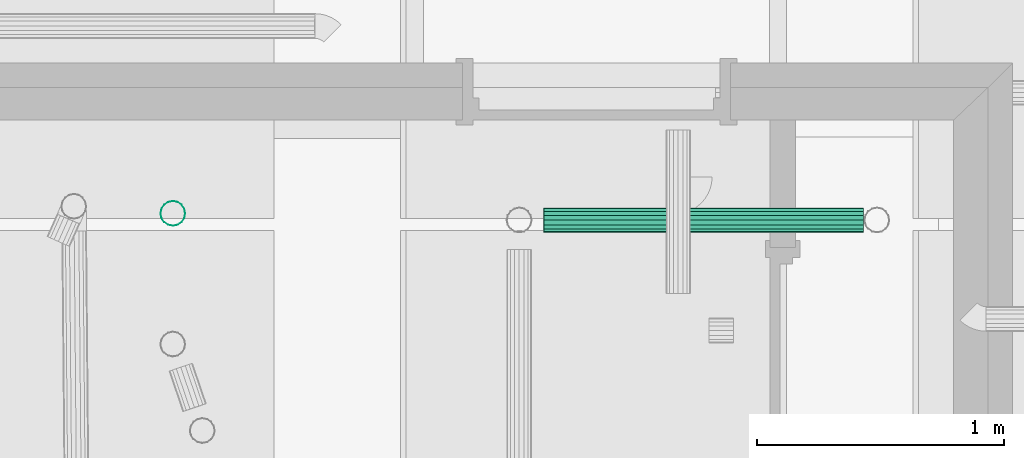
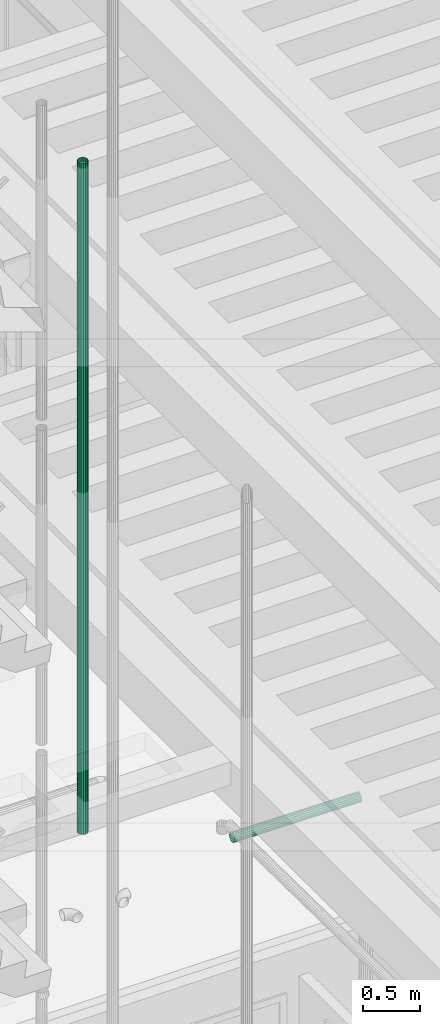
# One storey, part 62 of 108: 2 flow segments.
"""IFC2X3 building model written with IfcOpenShell, lengths in metres."""

from ifc_helpers import new_model, entity, si_unit, converted_unit, derived_unit, money_unit, direction, frame, origin_with_axes, place, context, subcontext, project, spatial, faceted_brep, material, type_object, element, save


model = new_model("IFC2X3")

# Units and contexts
model_context = context("Model", 3, precision=1e-05, world=origin_with_axes(), true_north=direction((0.0, 1.0)))
body_context = subcontext(model_context, "Body", "Model", "MODEL_VIEW", scale=1.0)
ifc_project = project(units=[si_unit("LENGTHUNIT", "METRE"), si_unit("AREAUNIT", "SQUARE_METRE"), si_unit("VOLUMEUNIT", "CUBIC_METRE"), si_unit("ABSORBEDDOSEUNIT", "GRAY"), si_unit("AMOUNTOFSUBSTANCEUNIT", "MOLE"), si_unit("DOSEEQUIVALENTUNIT", "SIEVERT"), si_unit("ELECTRICCAPACITANCEUNIT", "FARAD"), si_unit("ELECTRICCHARGEUNIT", "COULOMB"), si_unit("ELECTRICCONDUCTANCEUNIT", "SIEMENS"), si_unit("ELECTRICCURRENTUNIT", "AMPERE"), si_unit("ELECTRICRESISTANCEUNIT", "OHM"), si_unit("ELECTRICVOLTAGEUNIT", "VOLT"), si_unit("ENERGYUNIT", "JOULE"), si_unit("FORCEUNIT", "NEWTON"), si_unit("FREQUENCYUNIT", "HERTZ"), si_unit("ILLUMINANCEUNIT", "LUX"), si_unit("INDUCTANCEUNIT", "HENRY"), si_unit("LUMINOUSFLUXUNIT", "LUMEN"), si_unit("LUMINOUSINTENSITYUNIT", "CANDELA"), si_unit("MAGNETICFLUXDENSITYUNIT", "TESLA"), si_unit("MAGNETICFLUXUNIT", "WEBER"), si_unit("MASSUNIT", "GRAM"), converted_unit("PLANEANGLEUNIT", "degree", entity("IfcReal", 0.0174532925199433), si_unit("PLANEANGLEUNIT", "RADIAN"), dimensions=[0, 0, 0, 0, 0, 0, 0]), si_unit("POWERUNIT", "WATT"), si_unit("PRESSUREUNIT", "PASCAL"), si_unit("RADIOACTIVITYUNIT", "BECQUEREL"), si_unit("SOLIDANGLEUNIT", "STERADIAN"), si_unit("THERMODYNAMICTEMPERATUREUNIT", "KELVIN"), si_unit("TIMEUNIT", "SECOND"), derived_unit("ACCELERATIONUNIT", [(si_unit("LENGTHUNIT", "METRE"), 1), (si_unit("TIMEUNIT", "SECOND"), -2)]), derived_unit("ANGULARVELOCITYUNIT", [(converted_unit("PLANEANGLEUNIT", "degree", entity("IfcReal", 0.0174532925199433), si_unit("PLANEANGLEUNIT", "RADIAN"), dimensions=[0, 0, 0, 0, 0, 0, 0]), 1), (si_unit("TIMEUNIT", "SECOND"), -1)]), derived_unit("CURVATUREUNIT", [(converted_unit("PLANEANGLEUNIT", "degree", entity("IfcReal", 0.0174532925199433), si_unit("PLANEANGLEUNIT", "RADIAN"), dimensions=[0, 0, 0, 0, 0, 0, 0]), 1), (si_unit("LENGTHUNIT", "METRE"), -1)]), derived_unit("DYNAMICVISCOSITYUNIT", [(si_unit("PRESSUREUNIT", "PASCAL"), 1), (si_unit("TIMEUNIT", "SECOND"), 1)]), derived_unit("HEATFLUXDENSITYUNIT", [(si_unit("POWERUNIT", "WATT"), 1), (si_unit("LENGTHUNIT", "METRE"), -2)]), derived_unit("HEATINGVALUEUNIT", [(si_unit("ENERGYUNIT", "JOULE"), 1), (si_unit("MASSUNIT", "GRAM"), -1)]), derived_unit("INTEGERCOUNTRATEUNIT", [(si_unit("TIMEUNIT", "SECOND"), -1)]), derived_unit("IONCONCENTRATIONUNIT", [(si_unit("MASSUNIT", "GRAM"), 1), (si_unit("VOLUMEUNIT", "CUBIC_METRE"), -1)]), derived_unit("ISOTHERMALMOISTURECAPACITYUNIT", [(si_unit("VOLUMEUNIT", "CUBIC_METRE"), 1), (si_unit("MASSUNIT", "GRAM"), -1)]), derived_unit("KINEMATICVISCOSITYUNIT", [(si_unit("AREAUNIT", "SQUARE_METRE"), 1), (si_unit("TIMEUNIT", "SECOND"), -1)]), derived_unit("LINEARFORCEUNIT", [(si_unit("FORCEUNIT", "NEWTON"), 1), (si_unit("LENGTHUNIT", "METRE"), -1)]), derived_unit("LINEARMOMENTUNIT", [(si_unit("FORCEUNIT", "NEWTON"), 1), (si_unit("LENGTHUNIT", "METRE"), -1)]), derived_unit("LINEARSTIFFNESSUNIT", [(si_unit("FORCEUNIT", "NEWTON"), 1), (si_unit("LENGTHUNIT", "METRE"), -1)]), derived_unit("LINEARVELOCITYUNIT", [(si_unit("LENGTHUNIT", "METRE"), 1), (si_unit("TIMEUNIT", "SECOND"), -1)]), derived_unit("LUMINOUSINTENSITYDISTRIBUTIONUNIT", [(si_unit("LUMINOUSINTENSITYUNIT", "CANDELA"), 1), (si_unit("LUMINOUSFLUXUNIT", "LUMEN"), -1)]), derived_unit("MASSDENSITYUNIT", [(si_unit("MASSUNIT", "GRAM"), 1), (si_unit("VOLUMEUNIT", "CUBIC_METRE"), -1)]), derived_unit("MASSFLOWRATEUNIT", [(si_unit("MASSUNIT", "GRAM"), 1), (si_unit("TIMEUNIT", "SECOND"), -1)]), derived_unit("MASSPERLENGTHUNIT", [(si_unit("MASSUNIT", "GRAM"), 1), (si_unit("LENGTHUNIT", "METRE"), -1)]), derived_unit("MODULUSOFELASTICITYUNIT", [(si_unit("FORCEUNIT", "NEWTON"), 1), (si_unit("AREAUNIT", "SQUARE_METRE"), -1)]), derived_unit("MODULUSOFLINEARSUBGRADEREACTIONUNIT", [(si_unit("FORCEUNIT", "NEWTON"), 1), (si_unit("LENGTHUNIT", "METRE"), -2)]), derived_unit("MODULUSOFROTATIONALSUBGRADEREACTIONUNIT", [(si_unit("FORCEUNIT", "NEWTON"), 1), (si_unit("LENGTHUNIT", "METRE"), 1)]), derived_unit("MODULUSOFSUBGRADEREACTIONUNIT", [(si_unit("FORCEUNIT", "NEWTON"), 1), (si_unit("VOLUMEUNIT", "CUBIC_METRE"), -1)]), derived_unit("MOISTUREDIFFUSIVITYUNIT", [(si_unit("VOLUMEUNIT", "CUBIC_METRE"), 1), (si_unit("TIMEUNIT", "SECOND"), -1)]), derived_unit("MOLECULARWEIGHTUNIT", [(si_unit("MASSUNIT", "GRAM"), 1), (si_unit("AMOUNTOFSUBSTANCEUNIT", "MOLE"), -1)]), derived_unit("PLANARFORCEUNIT", [(si_unit("FORCEUNIT", "NEWTON"), 1), (si_unit("LENGTHUNIT", "METRE"), -2)]), derived_unit("ROTATIONALFREQUENCYUNIT", [(si_unit("TIMEUNIT", "SECOND"), -1)]), derived_unit("ROTATIONALMASSUNIT", [(si_unit("MASSUNIT", "GRAM"), 1), (si_unit("LENGTHUNIT", "METRE"), 2)]), derived_unit("ROTATIONALSTIFFNESSUNIT", [(si_unit("FORCEUNIT", "NEWTON"), 1), (si_unit("LENGTHUNIT", "METRE"), 1), (converted_unit("PLANEANGLEUNIT", "degree", entity("IfcReal", 0.0174532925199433), si_unit("PLANEANGLEUNIT", "RADIAN"), dimensions=[0, 0, 0, 0, 0, 0, 0]), -1)]), derived_unit("SECTIONAREAINTEGRALUNIT", [(si_unit("LENGTHUNIT", "METRE"), 5)]), derived_unit("SECTIONMODULUSUNIT", [(si_unit("LENGTHUNIT", "METRE"), 3)]), derived_unit("SHEARMODULUSUNIT", [(si_unit("FORCEUNIT", "NEWTON"), 1), (si_unit("AREAUNIT", "SQUARE_METRE"), -1)]), derived_unit("SOUNDPOWERUNIT", [(si_unit("ENERGYUNIT", "JOULE"), 1), (si_unit("TIMEUNIT", "SECOND"), -1)]), derived_unit("SPECIFICHEATCAPACITYUNIT", [(si_unit("FORCEUNIT", "NEWTON"), 1), (si_unit("MASSUNIT", "GRAM"), -1), (si_unit("THERMODYNAMICTEMPERATUREUNIT", "KELVIN"), -1)]), derived_unit("TEMPERATUREGRADIENTUNIT", [(si_unit("THERMODYNAMICTEMPERATUREUNIT", "KELVIN"), 1), (si_unit("LENGTHUNIT", "METRE"), -1)]), derived_unit("THERMALADMITTANCEUNIT", [(si_unit("POWERUNIT", "WATT"), 1), (si_unit("AREAUNIT", "SQUARE_METRE"), -1), (si_unit("THERMODYNAMICTEMPERATUREUNIT", "KELVIN"), -1)]), derived_unit("THERMALCONDUCTANCEUNIT", [(si_unit("POWERUNIT", "WATT"), 1), (si_unit("LENGTHUNIT", "METRE"), -1), (si_unit("THERMODYNAMICTEMPERATUREUNIT", "KELVIN"), -1)]), derived_unit("THERMALEXPANSIONCOEFFICIENTUNIT", [(si_unit("THERMODYNAMICTEMPERATUREUNIT", "KELVIN"), -1)]), derived_unit("THERMALRESISTANCEUNIT", [(si_unit("AREAUNIT", "SQUARE_METRE"), 1), (si_unit("POWERUNIT", "WATT"), -1)]), derived_unit("THERMALTRANSMITTANCEUNIT", [(si_unit("POWERUNIT", "WATT"), 1), (si_unit("AREAUNIT", "SQUARE_METRE"), -1), (si_unit("THERMODYNAMICTEMPERATUREUNIT", "KELVIN"), -1)]), derived_unit("TORQUEUNIT", [(si_unit("FORCEUNIT", "NEWTON"), 1), (si_unit("LENGTHUNIT", "METRE"), 1)]), derived_unit("VAPORPERMEABILITYUNIT", [(si_unit("MASSUNIT", "GRAM"), 1), (si_unit("TIMEUNIT", "SECOND"), -1)]), derived_unit("VOLUMETRICFLOWRATEUNIT", [(si_unit("VOLUMEUNIT", "CUBIC_METRE"), 1), (si_unit("TIMEUNIT", "SECOND"), -1)]), derived_unit("WARPINGCONSTANTUNIT", [(si_unit("LENGTHUNIT", "METRE"), 6)]), derived_unit("WARPINGMOMENTUNIT", [(si_unit("FORCEUNIT", "NEWTON"), 1), (si_unit("LENGTHUNIT", "METRE"), 2)]), money_unit("GBP")], contexts=[model_context])

# Site, building, storey
site_placement = place(None, origin_with_axes())
site = spatial("IfcSite", under=ifc_project, at=site_placement, Name="Site", CompositionType="ELEMENT")
building_placement = place(site_placement, origin_with_axes())
building = spatial("IfcBuilding", under=site, at=building_placement, Name="Building01", CompositionType="ELEMENT")
storey_placement = place(building_placement, origin_with_axes())
storey = spatial("IfcBuildingStorey", under=building, at=storey_placement, Name="GF", CompositionType="ELEMENT", Elevation=0.0)

# Flow segments
ifc_material = material(Name="M_BSUK_ColdWater")
pipe_segment_type = type_object("IfcPipeSegmentType", Name="M-BmpStraightpipe-DefaultPipe", PredefinedType="RIGIDSEGMENT")
flow_segment_1_placement = place(storey_placement, frame((16.004895, 8.543966, 12.13), z_axis=(1.0, 0.0, 0.0), x_axis=(0.0, 0.0, -1.0)))
element("IfcFlowSegment", 1, at=flow_segment_1_placement, inside=storey, type_object=pipe_segment_type, material=ifc_material, Name="M-BmpStraightpipe-DefaultPipe", ObjectType="M-BmpStraightpipe-DefaultPipe", context=body_context, shape_type="Brep", body=[
    faceted_brep([(7.206421, 0.0, -0.05), (0.0, 0.0, -0.05), (0.0, 0.019134, -0.046194), (7.206421, 0.019134, -0.046194), (0.0, 0.035355, -0.035355), (7.206421, 0.035355, -0.035355), (0.0, 0.046194, -0.019134), (7.206421, 0.046194, -0.019134), (0.0, 0.05, 0.0), (7.206421, 0.05, 0.0), (0.0, 0.046194, 0.019134), (7.206421, 0.046194, 0.019134), (0.0, 0.035355, 0.035355), (7.206421, 0.035355, 0.035355), (0.0, 0.019134, 0.046194), (7.206421, 0.019134, 0.046194), (0.0, 0.0, 0.05), (7.206421, 0.0, 0.05), (0.0, -0.019134, 0.046194), (7.206421, -0.019134, 0.046194), (0.0, -0.035355, 0.035355), (7.206421, -0.035355, 0.035355), (0.0, -0.046194, 0.019134), (7.206421, -0.046194, 0.019134), (0.0, -0.05, 0.0), (7.206421, -0.05, 0.0), (0.0, -0.046194, -0.019134), (7.206421, -0.046194, -0.019134), (0.0, -0.035355, -0.035355), (7.206421, -0.035355, -0.035355), (0.0, -0.019134, -0.046194), (7.206421, -0.019134, -0.046194)], [[[0, 1, 2, 3]], [[3, 2, 4, 5]], [[5, 4, 6, 7]], [[7, 6, 8, 9]], [[9, 8, 10, 11]], [[11, 10, 12, 13]], [[13, 12, 14, 15]], [[15, 14, 16, 17]], [[17, 16, 18, 19]], [[19, 18, 20, 21]], [[21, 20, 22, 23]], [[23, 22, 24, 25]], [[25, 24, 26, 27]], [[27, 26, 28, 29]], [[29, 28, 30, 31]], [[31, 30, 1, 0]]]),
])
flow_segment_2_placement = place(storey_placement, frame((17.505696, 8.516912, 4.350282), z_axis=(0.01249902, 0.0, 0.99992188), x_axis=(0.99992188, 0.0, -0.01249902)))
element("IfcFlowSegment", 2, at=flow_segment_2_placement, inside=storey, type_object=pipe_segment_type, material=ifc_material, Name="M-BmpStraightpipe-DefaultPipe", ObjectType="M-BmpStraightpipe-DefaultPipe", context=body_context, shape_type="Brep", body=[
    faceted_brep([(1.293316, 0.0, -0.05), (0.0, 0.0, -0.05), (0.0, 0.019134, -0.046194), (1.293316, 0.019134, -0.046194), (0.0, 0.035355, -0.035355), (1.293316, 0.035355, -0.035355), (0.0, 0.046194, -0.019134), (1.293316, 0.046194, -0.019134), (0.0, 0.05, 0.0), (1.293316, 0.05, 0.0), (0.0, 0.046194, 0.019134), (1.293316, 0.046194, 0.019134), (0.0, 0.035355, 0.035355), (1.293316, 0.035355, 0.035355), (0.0, 0.019134, 0.046194), (1.293316, 0.019134, 0.046194), (0.0, 0.0, 0.05), (1.293316, 0.0, 0.05), (0.0, -0.019134, 0.046194), (1.293316, -0.019134, 0.046194), (0.0, -0.035355, 0.035355), (1.293316, -0.035355, 0.035355), (0.0, -0.046194, 0.019134), (1.293316, -0.046194, 0.019134), (0.0, -0.05, 0.0), (1.293316, -0.05, 0.0), (0.0, -0.046194, -0.019134), (1.293316, -0.046194, -0.019134), (0.0, -0.035355, -0.035355), (1.293316, -0.035355, -0.035355), (0.0, -0.019134, -0.046194), (1.293316, -0.019134, -0.046194)], [[[0, 1, 2, 3]], [[3, 2, 4, 5]], [[5, 4, 6, 7]], [[7, 6, 8, 9]], [[9, 8, 10, 11]], [[11, 10, 12, 13]], [[13, 12, 14, 15]], [[15, 14, 16, 17]], [[17, 16, 18, 19]], [[19, 18, 20, 21]], [[21, 20, 22, 23]], [[23, 22, 24, 25]], [[25, 24, 26, 27]], [[27, 26, 28, 29]], [[29, 28, 30, 31]], [[31, 30, 1, 0]]]),
])

save(model, "model.ifc")
